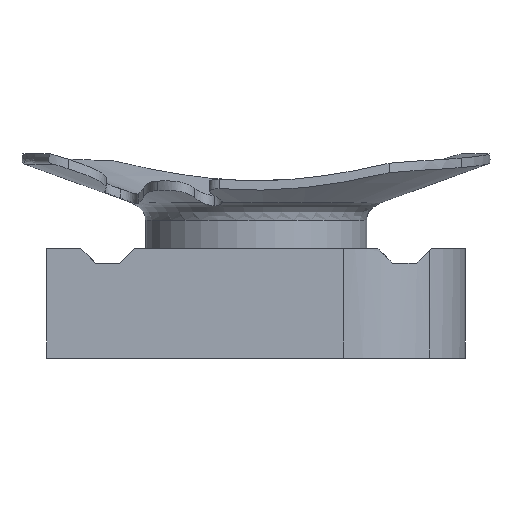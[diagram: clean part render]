
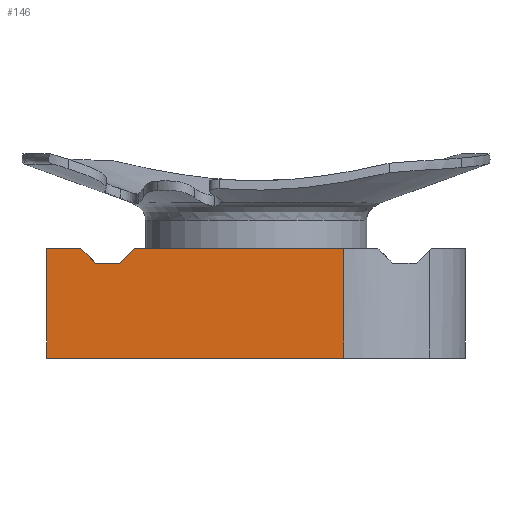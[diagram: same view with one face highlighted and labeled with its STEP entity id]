
A CAD part, front view. The second image highlights one B-rep face of the part: STEP entity #146.
In plain terms, the highlighted planar face has unit normal (0, -1, 0).
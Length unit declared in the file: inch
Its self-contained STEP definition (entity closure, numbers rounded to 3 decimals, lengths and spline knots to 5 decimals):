
#146=ADVANCED_FACE('',(#334),#335,.T.);
#334=FACE_OUTER_BOUND('',#691,.T.);
#335=PLANE('',#692);
#691=EDGE_LOOP('',(#1382,#1383,#1384,#1385,#1386,#1387,#1388,#1389));
#692=AXIS2_PLACEMENT_3D('',#1390,#1391,#1392);
#1382=ORIENTED_EDGE('',*,*,#1928,.F.);
#1383=ORIENTED_EDGE('',*,*,#1909,.T.);
#1384=ORIENTED_EDGE('',*,*,#1921,.T.);
#1385=ORIENTED_EDGE('',*,*,#1929,.F.);
#1386=ORIENTED_EDGE('',*,*,#1930,.T.);
#1387=ORIENTED_EDGE('',*,*,#1931,.T.);
#1388=ORIENTED_EDGE('',*,*,#1932,.T.);
#1389=ORIENTED_EDGE('',*,*,#1933,.F.);
#1390=CARTESIAN_POINT('',(0.48031,0.,-0.09806));
#1391=DIRECTION('',(0.0,-1.0,0.0));
#1392=DIRECTION('',(1.0,0.0,0.0));
#1909=EDGE_CURVE('',#2255,#2252,#2256,.T.);
#1921=EDGE_CURVE('',#2252,#2271,#2273,.T.);
#1928=EDGE_CURVE('',#2255,#2283,#2284,.T.);
#1929=EDGE_CURVE('',#2285,#2271,#2286,.T.);
#1930=EDGE_CURVE('',#2285,#2287,#2288,.T.);
#1931=EDGE_CURVE('',#2287,#2289,#2290,.T.);
#1932=EDGE_CURVE('',#2289,#2291,#2292,.T.);
#1933=EDGE_CURVE('',#2283,#2291,#2293,.T.);
#2252=VERTEX_POINT('',#3032);
#2255=VERTEX_POINT('',#3035);
#2256=LINE('',#3036,#3037);
#2271=VERTEX_POINT('',#3060);
#2273=LINE('',#3062,#3063);
#2283=VERTEX_POINT('',#3085);
#2284=LINE('',#3086,#3087);
#2285=VERTEX_POINT('',#3088);
#2286=LINE('',#3089,#3090);
#2287=VERTEX_POINT('',#3091);
#2288=LINE('',#3092,#3093);
#2289=VERTEX_POINT('',#3094);
#2290=LINE('',#3095,#3096);
#2291=VERTEX_POINT('',#3097);
#2292=LINE('',#3098,#3099);
#2293=LINE('',#3100,#3101);
#3032=CARTESIAN_POINT('',(0.96063,0.,-0.09806));
#3035=CARTESIAN_POINT('',(0.0,0.,-0.09806));
#3036=CARTESIAN_POINT('',(0.0,0.,-0.09806));
#3037=VECTOR('',#3858,0.3937);
#3060=CARTESIAN_POINT('',(0.96063,0.,0.25591));
#3062=CARTESIAN_POINT('',(0.96063,0.,-0.09806));
#3063=VECTOR('',#3877,0.03937);
#3085=CARTESIAN_POINT('',(0.,0.,0.25591));
#3086=CARTESIAN_POINT('',(0.0,0.,-0.09806));
#3087=VECTOR('',#3880,0.03937);
#3088=CARTESIAN_POINT('',(0.28346,0.,0.25591));
#3089=CARTESIAN_POINT('',(0.,0.,0.25591));
#3090=VECTOR('',#3881,0.3937);
#3091=CARTESIAN_POINT('',(0.23622,0.,0.20866));
#3092=CARTESIAN_POINT('',(0.18898,0.,0.16142));
#3093=VECTOR('',#3882,0.3937);
#3094=CARTESIAN_POINT('',(0.15748,0.,0.20866));
#3095=CARTESIAN_POINT('',(0.07874,0.,0.20866));
#3096=VECTOR('',#3883,0.3937);
#3097=CARTESIAN_POINT('',(0.11024,0.,0.25591));
#3098=CARTESIAN_POINT('',(0.08268,0.,0.28346));
#3099=VECTOR('',#3884,0.3937);
#3100=CARTESIAN_POINT('',(0.,0.,0.25591));
#3101=VECTOR('',#3885,0.3937);
#3858=DIRECTION('',(1.0,0.0,0.0));
#3877=DIRECTION('',(0.0,0.0,1.0));
#3880=DIRECTION('',(0.0,0.0,1.0));
#3881=DIRECTION('',(1.0,0.0,0.0));
#3882=DIRECTION('',(-0.707,0.0,-0.707));
#3883=DIRECTION('',(-1.0,0.0,0.));
#3884=DIRECTION('',(-0.707,-0.0,0.707));
#3885=DIRECTION('',(1.0,0.0,0.0));
